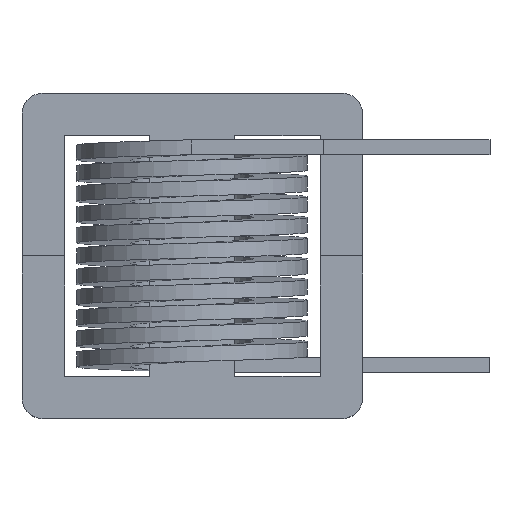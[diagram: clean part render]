
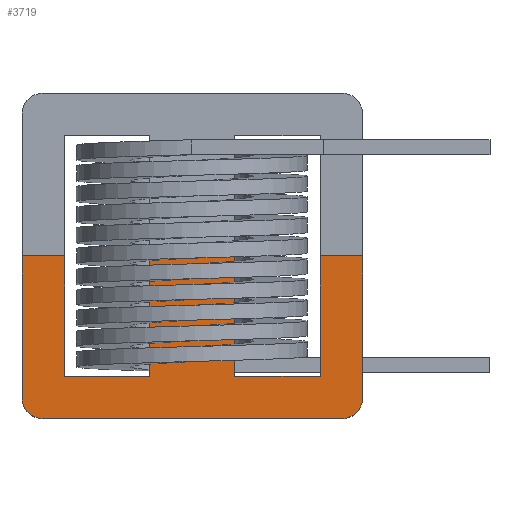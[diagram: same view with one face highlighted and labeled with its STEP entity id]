
A CAD part, top view. The second image highlights one B-rep face of the part: STEP entity #3719.
In plain terms, the highlighted planar face has unit normal (0, 0, 1).
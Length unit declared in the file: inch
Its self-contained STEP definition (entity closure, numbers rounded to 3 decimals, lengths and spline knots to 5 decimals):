
#37 = VECTOR ( 'NONE', #4219, 39.37008 ) ;
#46 = DIRECTION ( 'NONE',  ( 0., 0., 1. ) ) ;
#78 = VERTEX_POINT ( 'NONE', #2766 ) ;
#79 = DIRECTION ( 'NONE',  ( 0., -1., 0. ) ) ;
#106 = CARTESIAN_POINT ( 'NONE',  ( -1.4, -0.865, 0.782 ) ) ;
#130 = ORIENTED_EDGE ( 'NONE', *, *, #4127, .T. ) ;
#144 = AXIS2_PLACEMENT_3D ( 'NONE', #3600, #305, #4712 ) ;
#166 = CARTESIAN_POINT ( 'NONE',  ( 1.6, 0.665, 0.782 ) ) ;
#211 = VECTOR ( 'NONE', #3514, 39.37008 ) ;
#228 = LINE ( 'NONE', #3729, #2301 ) ;
#278 = EDGE_CURVE ( 'NONE', #1699, #2050, #2886, .T. ) ;
#305 = DIRECTION ( 'NONE',  ( 0., 0., 1. ) ) ;
#315 = EDGE_CURVE ( 'NONE', #3403, #1031, #3659, .T. ) ;
#362 = EDGE_CURVE ( 'NONE', #831, #1699, #2750, .T. ) ;
#426 = VERTEX_POINT ( 'NONE', #3226 ) ;
#487 = ORIENTED_EDGE ( 'NONE', *, *, #315, .T. ) ;
#535 = ORIENTED_EDGE ( 'NONE', *, *, #3823, .T. ) ;
#540 = ORIENTED_EDGE ( 'NONE', *, *, #4635, .T. ) ;
#619 = LINE ( 'NONE', #4597, #211 ) ;
#725 = ORIENTED_EDGE ( 'NONE', *, *, #4064, .T. ) ;
#736 = CARTESIAN_POINT ( 'NONE',  ( 0.4, -0.465, 0.782 ) ) ;
#756 = LINE ( 'NONE', #1917, #2832 ) ;
#831 = VERTEX_POINT ( 'NONE', #2897 ) ;
#919 = EDGE_CURVE ( 'NONE', #1031, #2328, #4163, .T. ) ;
#926 = CARTESIAN_POINT ( 'NONE',  ( -1.2, -0.465, 0.782 ) ) ;
#1011 = VERTEX_POINT ( 'NONE', #1230 ) ;
#1031 = VERTEX_POINT ( 'NONE', #106 ) ;
#1053 = DIRECTION ( 'NONE',  ( 0., -1., 0. ) ) ;
#1098 = FACE_OUTER_BOUND ( 'NONE', #4619, .T. ) ;
#1121 = DIRECTION ( 'NONE',  ( -1., 0., 0. ) ) ;
#1127 = VERTEX_POINT ( 'NONE', #2329 ) ;
#1230 = CARTESIAN_POINT ( 'NONE',  ( 1.6, -0.665, 0.782 ) ) ;
#1247 = DIRECTION ( 'NONE',  ( 1., 0., 0. ) ) ;
#1263 = DIRECTION ( 'NONE',  ( 0., 1., 0. ) ) ;
#1358 = EDGE_CURVE ( 'NONE', #3343, #3071, #1441, .T. ) ;
#1361 = CARTESIAN_POINT ( 'NONE',  ( 1.2, 0.665, 0.782 ) ) ;
#1378 = AXIS2_PLACEMENT_3D ( 'NONE', #3344, #46, #2626 ) ;
#1432 = VECTOR ( 'NONE', #1053, 39.37008 ) ;
#1441 = LINE ( 'NONE', #1649, #37 ) ;
#1472 = DIRECTION ( 'NONE',  ( -1., 0., 0. ) ) ;
#1555 = AXIS2_PLACEMENT_3D ( 'NONE', #3206, #3174, #3528 ) ;
#1579 = VECTOR ( 'NONE', #1121, 39.37008 ) ;
#1649 = CARTESIAN_POINT ( 'NONE',  ( 0.4, -0.465, 0.782 ) ) ;
#1664 = EDGE_CURVE ( 'NONE', #2050, #1127, #619, .T. ) ;
#1699 = VERTEX_POINT ( 'NONE', #3447 ) ;
#1706 = ORIENTED_EDGE ( 'NONE', *, *, #3458, .T. ) ;
#1764 = EDGE_CURVE ( 'NONE', #1011, #3754, #2056, .T. ) ;
#1816 = CARTESIAN_POINT ( 'NONE',  ( -0.4, 0.665, 0.782 ) ) ;
#1891 = VECTOR ( 'NONE', #2822, 39.37008 ) ;
#1917 = CARTESIAN_POINT ( 'NONE',  ( -1.6, 0.665, 0.782 ) ) ;
#1928 = LINE ( 'NONE', #1816, #4327 ) ;
#2050 = VERTEX_POINT ( 'NONE', #4366 ) ;
#2056 = LINE ( 'NONE', #166, #2405 ) ;
#2063 = VECTOR ( 'NONE', #1247, 39.37008 ) ;
#2107 = ORIENTED_EDGE ( 'NONE', *, *, #278, .T. ) ;
#2116 = VERTEX_POINT ( 'NONE', #1361 ) ;
#2166 = LINE ( 'NONE', #4014, #2380 ) ;
#2167 = EDGE_CURVE ( 'NONE', #78, #3343, #2789, .T. ) ;
#2196 = CARTESIAN_POINT ( 'NONE',  ( -1.6, -0.665, 0.782 ) ) ;
#2301 = VECTOR ( 'NONE', #79, 39.37008 ) ;
#2328 = VERTEX_POINT ( 'NONE', #2856 ) ;
#2329 = CARTESIAN_POINT ( 'NONE',  ( -1.6, 0.665, 0.782 ) ) ;
#2380 = VECTOR ( 'NONE', #2952, 39.37008 ) ;
#2405 = VECTOR ( 'NONE', #1263, 39.37008 ) ;
#2585 = VECTOR ( 'NONE', #3579, 39.37008 ) ;
#2626 = DIRECTION ( 'NONE',  ( 1., 0., 0. ) ) ;
#2750 = LINE ( 'NONE', #3850, #2585 ) ;
#2766 = CARTESIAN_POINT ( 'NONE',  ( 1.2, -0.465, 0.782 ) ) ;
#2789 = LINE ( 'NONE', #736, #1579 ) ;
#2822 = DIRECTION ( 'NONE',  ( 0., 1., 0. ) ) ;
#2832 = VECTOR ( 'NONE', #3362, 39.37008 ) ;
#2856 = CARTESIAN_POINT ( 'NONE',  ( 1.4, -0.865, 0.782 ) ) ;
#2886 = LINE ( 'NONE', #926, #1891 ) ;
#2897 = CARTESIAN_POINT ( 'NONE',  ( -0.4, -0.465, 0.782 ) ) ;
#2940 = PLANE ( 'NONE',  #1378 ) ;
#2952 = DIRECTION ( 'NONE',  ( -1., 0., 0. ) ) ;
#3071 = VERTEX_POINT ( 'NONE', #3731 ) ;
#3075 = ORIENTED_EDGE ( 'NONE', *, *, #919, .T. ) ;
#3174 = DIRECTION ( 'NONE',  ( 0., 0., 1. ) ) ;
#3206 = CARTESIAN_POINT ( 'NONE',  ( 1.4, -0.665, 0.782 ) ) ;
#3226 = CARTESIAN_POINT ( 'NONE',  ( -0.4, 0.665, 0.782 ) ) ;
#3282 = CIRCLE ( 'NONE', #1555, 0.2 ) ;
#3343 = VERTEX_POINT ( 'NONE', #3590 ) ;
#3344 = CARTESIAN_POINT ( 'NONE',  ( -1.4, -0.665, 0.782 ) ) ;
#3362 = DIRECTION ( 'NONE',  ( 0., -1., 0. ) ) ;
#3403 = VERTEX_POINT ( 'NONE', #2196 ) ;
#3423 = ORIENTED_EDGE ( 'NONE', *, *, #4041, .T. ) ;
#3447 = CARTESIAN_POINT ( 'NONE',  ( -1.2, -0.465, 0.782 ) ) ;
#3458 = EDGE_CURVE ( 'NONE', #3071, #426, #1928, .T. ) ;
#3514 = DIRECTION ( 'NONE',  ( -1., 0., 0. ) ) ;
#3528 = DIRECTION ( 'NONE',  ( 1., 0., 0. ) ) ;
#3575 = CARTESIAN_POINT ( 'NONE',  ( 1.2, -0.465, 0.782 ) ) ;
#3579 = DIRECTION ( 'NONE',  ( -1., 0., 0. ) ) ;
#3590 = CARTESIAN_POINT ( 'NONE',  ( 0.4, -0.465, 0.782 ) ) ;
#3600 = CARTESIAN_POINT ( 'NONE',  ( -1.4, -0.665, 0.782 ) ) ;
#3644 = ORIENTED_EDGE ( 'NONE', *, *, #1664, .T. ) ;
#3659 = CIRCLE ( 'NONE', #144, 0.2 ) ;
#3713 = CARTESIAN_POINT ( 'NONE',  ( 1.6, 0.665, 0.782 ) ) ;
#3719 = ADVANCED_FACE ( 'NONE', ( #1098 ), #2940, .T. ) ;
#3729 = CARTESIAN_POINT ( 'NONE',  ( -0.4, -0.465, 0.782 ) ) ;
#3731 = CARTESIAN_POINT ( 'NONE',  ( 0.4, 0.665, 0.782 ) ) ;
#3754 = VERTEX_POINT ( 'NONE', #3713 ) ;
#3807 = ORIENTED_EDGE ( 'NONE', *, *, #2167, .T. ) ;
#3823 = EDGE_CURVE ( 'NONE', #3754, #2116, #2166, .T. ) ;
#3850 = CARTESIAN_POINT ( 'NONE',  ( -1.2, -0.465, 0.782 ) ) ;
#3914 = ORIENTED_EDGE ( 'NONE', *, *, #1764, .T. ) ;
#4014 = CARTESIAN_POINT ( 'NONE',  ( 1.2, 0.665, 0.782 ) ) ;
#4037 = LINE ( 'NONE', #3575, #1432 ) ;
#4041 = EDGE_CURVE ( 'NONE', #1127, #3403, #756, .T. ) ;
#4064 = EDGE_CURVE ( 'NONE', #426, #831, #228, .T. ) ;
#4127 = EDGE_CURVE ( 'NONE', #2328, #1011, #3282, .T. ) ;
#4133 = CARTESIAN_POINT ( 'NONE',  ( -1.4, -0.865, 0.782 ) ) ;
#4163 = LINE ( 'NONE', #4133, #2063 ) ;
#4219 = DIRECTION ( 'NONE',  ( 0., 1., 0. ) ) ;
#4231 = ORIENTED_EDGE ( 'NONE', *, *, #362, .T. ) ;
#4292 = ORIENTED_EDGE ( 'NONE', *, *, #1358, .T. ) ;
#4327 = VECTOR ( 'NONE', #1472, 39.37008 ) ;
#4366 = CARTESIAN_POINT ( 'NONE',  ( -1.2, 0.665, 0.782 ) ) ;
#4597 = CARTESIAN_POINT ( 'NONE',  ( -1.6, 0.665, 0.782 ) ) ;
#4619 = EDGE_LOOP ( 'NONE', ( #3423, #487, #3075, #130, #3914, #535, #540, #3807, #4292, #1706, #725, #4231, #2107, #3644 ) ) ;
#4635 = EDGE_CURVE ( 'NONE', #2116, #78, #4037, .T. ) ;
#4712 = DIRECTION ( 'NONE',  ( 1., 0., 0. ) ) ;
